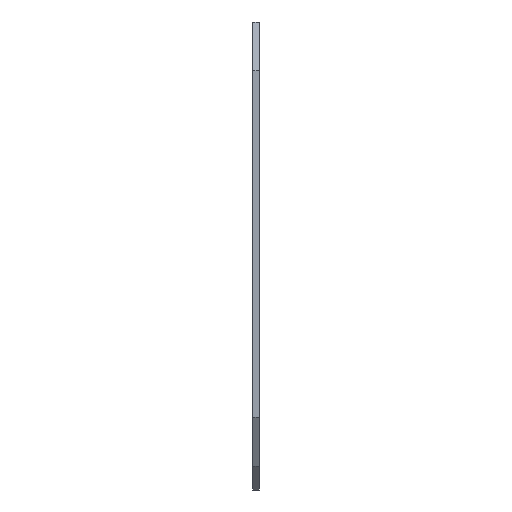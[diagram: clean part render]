
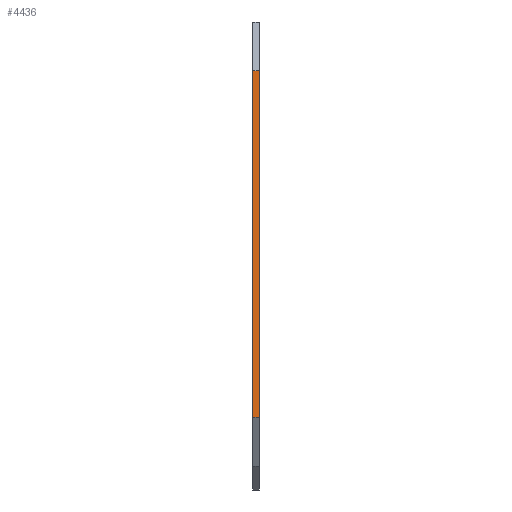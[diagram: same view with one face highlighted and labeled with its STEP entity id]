
A CAD part, left-side view. The second image highlights one B-rep face of the part: STEP entity #4436.
In plain terms, the highlighted planar face has unit normal (-1, 0, 0).
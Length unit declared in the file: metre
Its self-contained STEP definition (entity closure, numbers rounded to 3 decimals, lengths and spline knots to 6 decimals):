
#222=LINE('',#6489,#675);
#223=LINE('',#6490,#676);
#675=VECTOR('',#5171,1.);
#676=VECTOR('',#5172,1.);
#1129=ORIENTED_EDGE('',*,*,#2317,.T.);
#1130=ORIENTED_EDGE('',*,*,#2318,.T.);
#1131=ORIENTED_EDGE('',*,*,#2313,.F.);
#1132=ORIENTED_EDGE('',*,*,#2319,.F.);
#2313=EDGE_CURVE('',#2907,#2908,#3349,.F.);
#2317=EDGE_CURVE('',#2911,#2912,#3350,.F.);
#2318=EDGE_CURVE('',#2912,#2908,#222,.T.);
#2319=EDGE_CURVE('',#2911,#2907,#223,.T.);
#2907=VERTEX_POINT('',#6475);
#2908=VERTEX_POINT('',#6476);
#2911=VERTEX_POINT('',#6487);
#2912=VERTEX_POINT('',#6488);
#3349=B_SPLINE_CURVE_WITH_KNOTS('',3,(#6471,#6472,#6473,#6474),
 .UNSPECIFIED.,.F.,.F.,(4,4),(0.,1.),.UNSPECIFIED.);
#3350=B_SPLINE_CURVE_WITH_KNOTS('',3,(#6483,#6484,#6485,#6486),
 .UNSPECIFIED.,.F.,.F.,(4,4),(0.,1.),.UNSPECIFIED.);
#3353=EDGE_LOOP('',(#1129,#1130,#1131,#1132));
#3785=FACE_BOUND('',#3353,.T.);
#4217=PLANE('',#4737);
#4436=ADVANCED_FACE('',(#3785),#4217,.T.);
#4737=AXIS2_PLACEMENT_3D('',#6482,#5169,#5170);
#5169=DIRECTION('',(-1.,0.,0.));
#5170=DIRECTION('',(0.,0.,1.));
#5171=DIRECTION('',(0.,0.,1.));
#5172=DIRECTION('',(0.,0.,1.));
#6471=CARTESIAN_POINT('',(1.059462,0.,-1.102636));
#6472=CARTESIAN_POINT('',(1.059462,0.000333,-1.102636));
#6473=CARTESIAN_POINT('',(1.059462,0.000667,-1.102636));
#6474=CARTESIAN_POINT('',(1.059462,0.001,-1.102636));
#6475=CARTESIAN_POINT('',(1.059464,0.001,-1.102637));
#6476=CARTESIAN_POINT('',(1.059466,0.,-1.102638));
#6482=CARTESIAN_POINT('',(1.059469,0.,-1.12745));
#6483=CARTESIAN_POINT('',(1.059469,0.,-1.15226));
#6484=CARTESIAN_POINT('',(1.059469,0.000333,-1.15226));
#6485=CARTESIAN_POINT('',(1.059469,0.000667,-1.15226));
#6486=CARTESIAN_POINT('',(1.059469,0.001,-1.15226));
#6487=CARTESIAN_POINT('',(1.059465,0.001,-1.152261));
#6488=CARTESIAN_POINT('',(1.059466,0.,-1.152261));
#6489=CARTESIAN_POINT('',(1.059469,0.,-1.12745));
#6490=CARTESIAN_POINT('',(1.059469,0.001,-1.129165));
